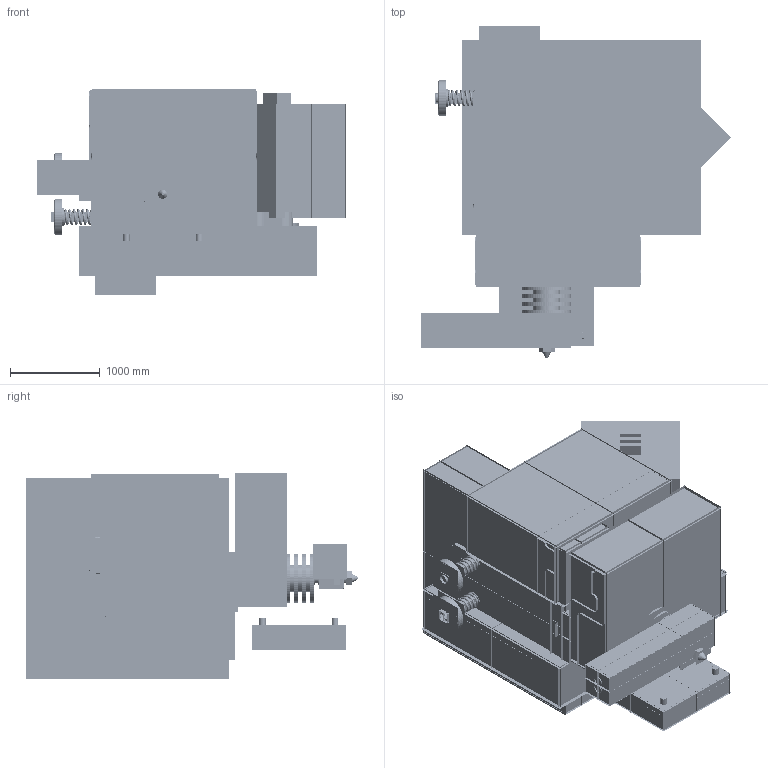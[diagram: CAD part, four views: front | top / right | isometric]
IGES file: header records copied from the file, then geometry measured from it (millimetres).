
Start section:  PTC IGES file: extruder-body.igs
Bounding box: 3460.24 x 3704.6 x 2295.8 mm (x, y, z)
Surface area: 791000609.8 mm2 (no closed solid volume)
Topology: 0 solids, 0 shells, 18874 faces, 235869 edges, 309578 vertices
Faces by surface type: revolution 11152, bspline 7432, extrusion 290
